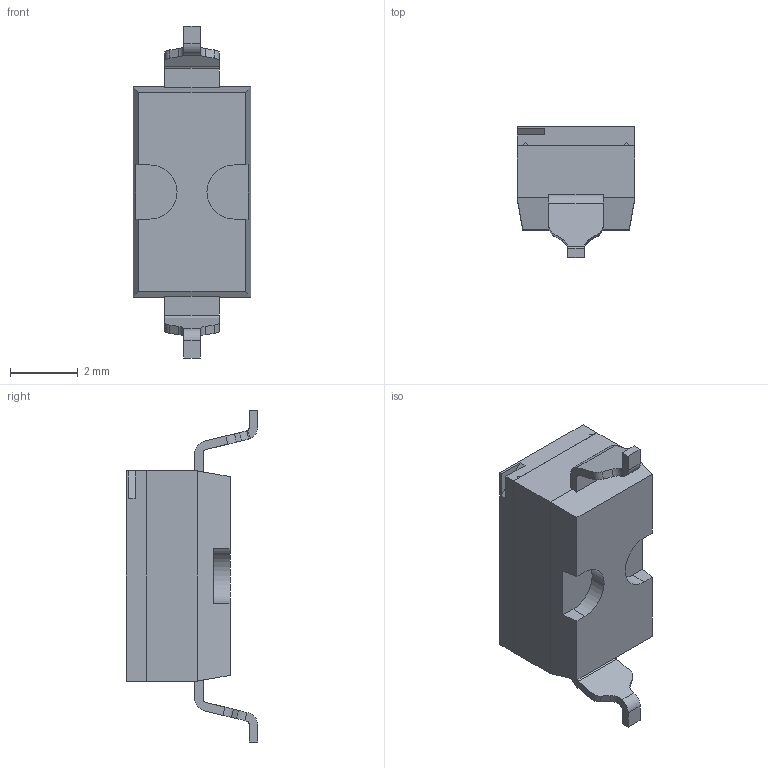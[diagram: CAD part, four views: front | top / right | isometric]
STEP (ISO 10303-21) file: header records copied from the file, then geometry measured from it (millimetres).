
FILE_DESCRIPTION (( 'STEP AP203' ), '1' );
FILE_NAME ('DMR-01-T.STEP', '2018-01-17T07:57:23', ( 'mis' ), ( '' ), 'SwSTEP 2.0', 'SolidWorks 2008', '' );
FILE_SCHEMA (( 'CONFIG_CONTROL_DESIGN' ));
Length unit declared in the file: millimetre
Products named in the file (6): NIPH_預設; DMR-01-T; NIPT_預設; NIPC_預設; IPA_壓縮後_預設; IPS-02_新構思_預設
Assembly tree (5 placements, depth 2):
  DMR-01-T
    IPS-02_新構思_預設
    NIPT_預設
    NIPC_預設
    NIPH_預設
    IPA_壓縮後_預設
Bounding box: 3.48 x 3.87 x 9.8 mm (x, y, z)
Volume: 54.7 mm3; surface area: 275.1 mm2
Topology: 5 solids, 8 shells, 301 faces, 827 edges, 545 vertices
Faces by surface type: plane 216, cylinder 68, bspline 12, cone 5
Entity records: 10855 total; most frequent: CARTESIAN_POINT 2523, ORIENTED_EDGE 1650, DIRECTION 1527, EDGE_CURVE 825, VECTOR 645, LINE 645, VERTEX_POINT 545, AXIS2_PLACEMENT_3D 441
